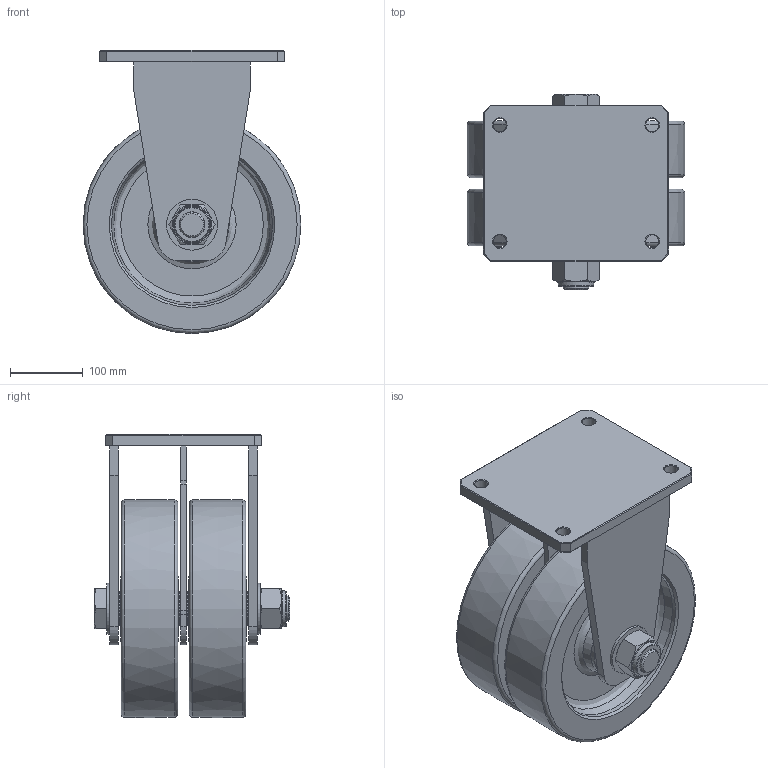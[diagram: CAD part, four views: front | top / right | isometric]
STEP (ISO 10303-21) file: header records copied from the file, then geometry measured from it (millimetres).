
FILE_DESCRIPTION((''),'2;1');
FILE_NAME('C:\Documents and Settings\Administrator\바탕 화면\3D STEP\GXTD-SERIES\GXTD-300\GXTD-300-RF.stp','2010-12-27T14:39:07',('Administrator'),(''),'Autodesk Inventor 2009','Autodesk Inventor 2009','');
FILE_SCHEMA(('AUTOMOTIVE_DESIGN { 1 0 10303 214 1 1 1 1 }'));
Length unit declared in the file: millimetre
Products named in the file (1): GXTD-300-RF
Bounding box: 300 x 269 x 390 mm (x, y, z)
Volume: 9460751 mm3; surface area: 918905.3 mm2
Topology: 10 solids, 10 shells, 262 faces, 595 edges, 380 vertices
Faces by surface type: plane 103, cylinder 61, cone 48, torus 31, bspline 19
Full cylindrical faces by diameter (mm): 18 x4, 35 x6, 35.3 x2, 35.5 x1, 38 x2, 47.334 x8, 59.666 x8, 64 x2, 70 x2, 72 x8, 96 x4, 222 x4
Entity records: 7138 total; most frequent: CARTESIAN_POINT 2129, DIRECTION 1062, ORIENTED_EDGE 790, AXIS2_PLACEMENT_3D 459, EDGE_LOOP 450, EDGE_CURVE 395, VERTEX_POINT 311, FACE_OUTER_BOUND 262
